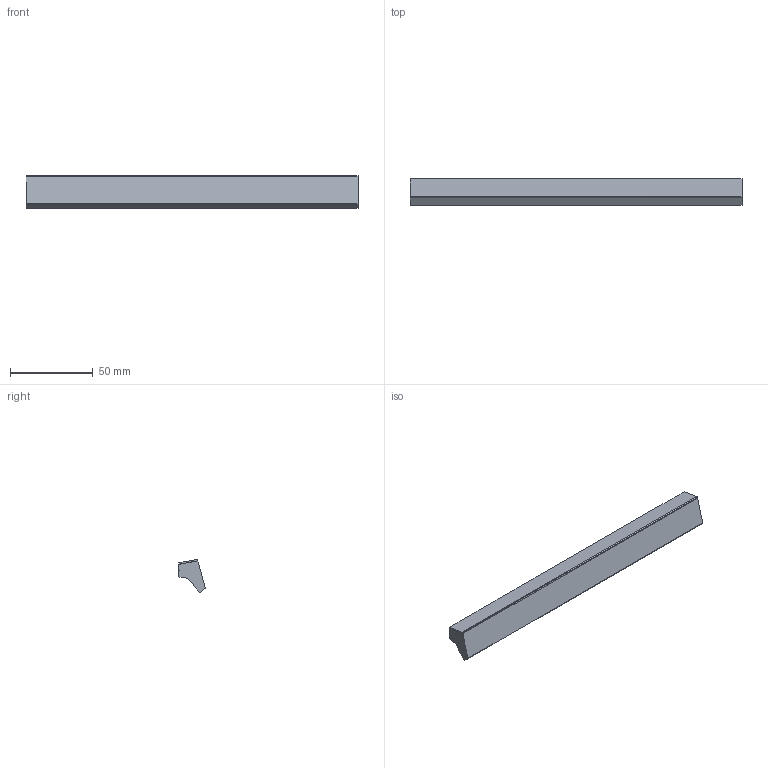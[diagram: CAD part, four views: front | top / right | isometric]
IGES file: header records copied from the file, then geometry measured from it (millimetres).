
Start section: C
Global section: file name: 8245-200.igs; native system: By Siemens PLM Incorporated; preprocessor: XPlus GENERIC/IGES 16.0.42; author: Author; organization: Title; date: 20231114.132625; units: millimetre
Bounding box: 200 x 15.87 x 19.83 mm (x, y, z)
Surface area: 17002.5 mm2 (no closed solid volume)
Topology: 0 solids, 0 shells, 29 faces, 154 edges, 154 vertices
Faces by surface type: bspline 29
